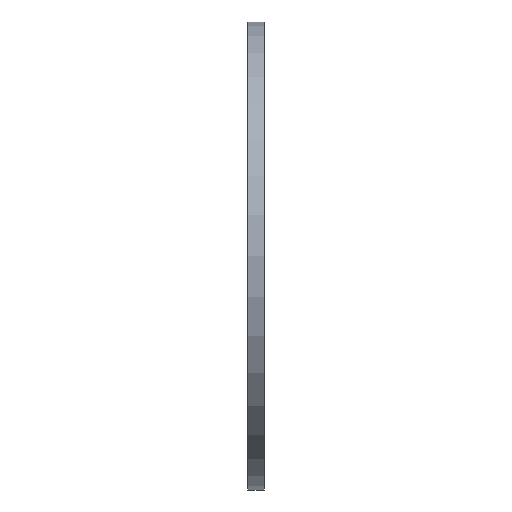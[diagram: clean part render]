
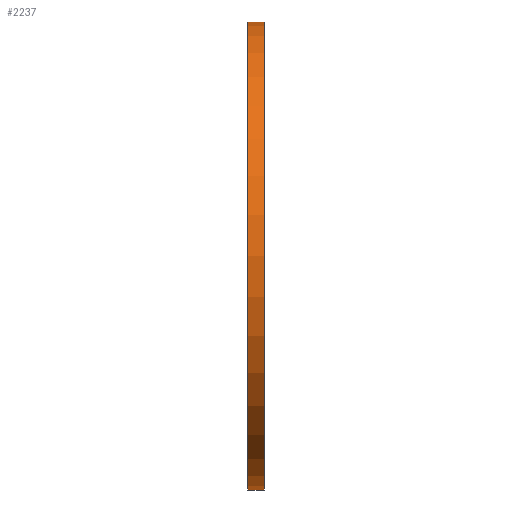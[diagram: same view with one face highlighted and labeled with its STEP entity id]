
A CAD part, left-side view. The second image highlights one B-rep face of the part: STEP entity #2237.
In plain terms, the highlighted cylindrical face has radius 115 mm (diameter 230 mm), a partial arc.
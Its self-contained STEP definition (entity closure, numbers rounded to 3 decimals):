
#2 = CARTESIAN_POINT ( 'NONE',  ( 0., -15.017, -115. ) ) ;
#34 = EDGE_CURVE ( 'NONE', #867, #496, #1177, .T. ) ;
#105 = ORIENTED_EDGE ( 'NONE', *, *, #425, .F. ) ;
#153 = EDGE_CURVE ( 'NONE', #1096, #989, #629, .T. ) ;
#219 = AXIS2_PLACEMENT_3D ( 'NONE', #323, #771, #2052 ) ;
#262 = CARTESIAN_POINT ( 'NONE',  ( 0., -15.017, 115. ) ) ;
#291 = LINE ( 'NONE', #262, #875 ) ;
#310 = ORIENTED_EDGE ( 'NONE', *, *, #34, .T. ) ;
#323 = CARTESIAN_POINT ( 'NONE',  ( 0., 1.983, 0. ) ) ;
#342 = DIRECTION ( 'NONE',  ( 0., 0., 1. ) ) ;
#347 = EDGE_LOOP ( 'NONE', ( #105, #310, #2842, #2548 ) ) ;
#423 = DIRECTION ( 'NONE',  ( 0., 1., 0. ) ) ;
#425 = EDGE_CURVE ( 'NONE', #867, #989, #1453, .T. ) ;
#444 = AXIS2_PLACEMENT_3D ( 'NONE', #1703, #2117, #821 ) ;
#496 = VERTEX_POINT ( 'NONE', #2600 ) ;
#629 = CIRCLE ( 'NONE', #219, 115. ) ;
#771 = DIRECTION ( 'NONE',  ( 0., -1., 0. ) ) ;
#821 = DIRECTION ( 'NONE',  ( 1., 0., 0. ) ) ;
#867 = VERTEX_POINT ( 'NONE', #1386 ) ;
#875 = VECTOR ( 'NONE', #1573, 1000. ) ;
#895 = CARTESIAN_POINT ( 'NONE',  ( 0., 1.983, -115. ) ) ;
#989 = VERTEX_POINT ( 'NONE', #895 ) ;
#1044 = DIRECTION ( 'NONE',  ( 0., 1., 0. ) ) ;
#1096 = VERTEX_POINT ( 'NONE', #2559 ) ;
#1177 = CIRCLE ( 'NONE', #444, 115. ) ;
#1380 = AXIS2_PLACEMENT_3D ( 'NONE', #2375, #1044, #342 ) ;
#1386 = CARTESIAN_POINT ( 'NONE',  ( 0., -6.017, -115. ) ) ;
#1453 = LINE ( 'NONE', #2, #2479 ) ;
#1573 = DIRECTION ( 'NONE',  ( 0., 1., 0. ) ) ;
#1703 = CARTESIAN_POINT ( 'NONE',  ( 0., -6.017, 0. ) ) ;
#1873 = EDGE_CURVE ( 'NONE', #496, #1096, #291, .T. ) ;
#2052 = DIRECTION ( 'NONE',  ( -1., 0., 0. ) ) ;
#2091 = FACE_OUTER_BOUND ( 'NONE', #347, .T. ) ;
#2117 = DIRECTION ( 'NONE',  ( 0., 1., 0. ) ) ;
#2237 = ADVANCED_FACE ( 'NONE', ( #2091 ), #2387, .T. ) ;
#2375 = CARTESIAN_POINT ( 'NONE',  ( 0., -15.017, 0. ) ) ;
#2387 = CYLINDRICAL_SURFACE ( 'NONE', #1380, 115. ) ;
#2479 = VECTOR ( 'NONE', #423, 1000. ) ;
#2548 = ORIENTED_EDGE ( 'NONE', *, *, #153, .T. ) ;
#2559 = CARTESIAN_POINT ( 'NONE',  ( 0., 1.983, 115. ) ) ;
#2600 = CARTESIAN_POINT ( 'NONE',  ( 0., -6.017, 115. ) ) ;
#2842 = ORIENTED_EDGE ( 'NONE', *, *, #1873, .T. ) ;
